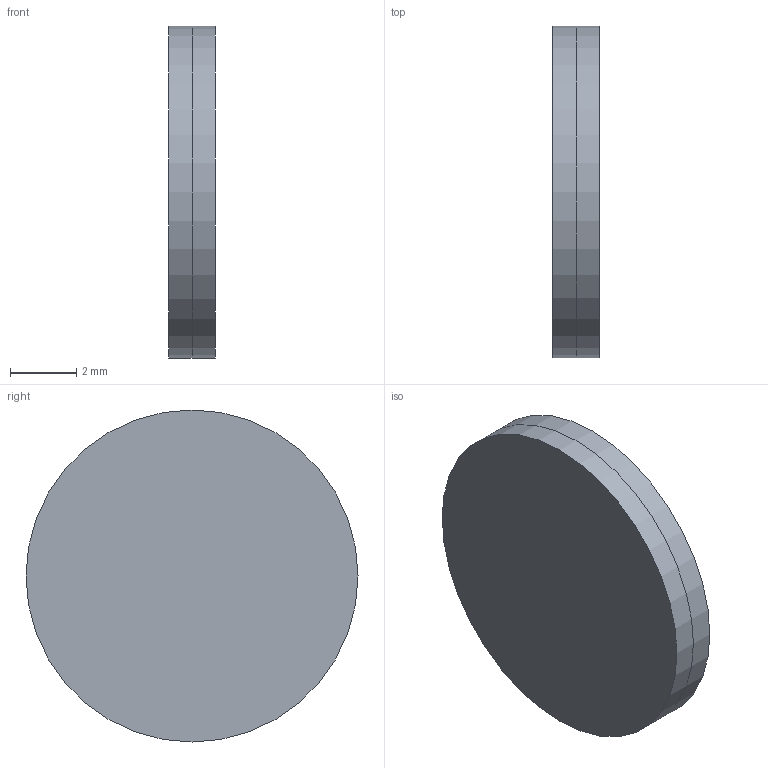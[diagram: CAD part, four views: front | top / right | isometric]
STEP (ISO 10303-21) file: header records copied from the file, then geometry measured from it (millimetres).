
FILE_DESCRIPTION(('Open CASCADE Model'),'2;1');
FILE_NAME('Open CASCADE Shape Model','2026-09-08T13:32:07',('Author'),( 'Open CASCADE'),'Open CASCADE STEP processor 7.7','Open CASCADE 7.7' ,'Unknown');
FILE_SCHEMA(('AUTOMOTIVE_DESIGN { 1 0 10303 214 1 1 1 1 }'));
Length unit declared in the file: millimetre
Products named in the file (1): Open CASCADE STEP translator 7.7 20
Bounding box: 1.4 x 10 x 10 mm (x, y, z)
Volume: 110 mm3; surface area: 201.1 mm2
Topology: 1 solids, 1 shells, 4 faces, 5 edges, 3 vertices
Faces by surface type: cylinder 2, plane 2
Full cylindrical faces by diameter (mm): 10 x2
Entity records: 158 total; most frequent: DIRECTION 27, CARTESIAN_POINT 24, ORIENTED_EDGE 10, PCURVE 10, DEFINITIONAL_REPRESENTATION 10, LINE 9, VECTOR 9, AXIS2_PLACEMENT_3D 8
